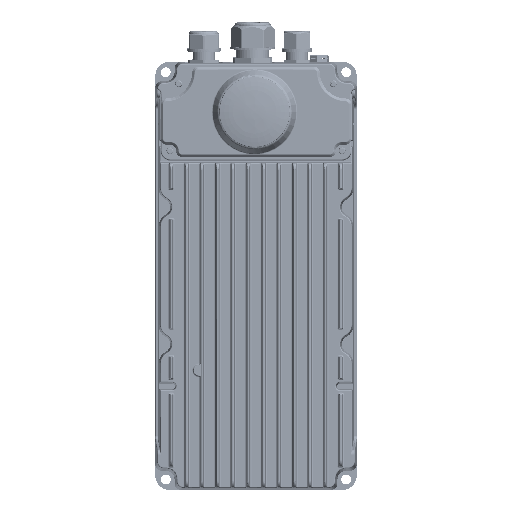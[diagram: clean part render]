
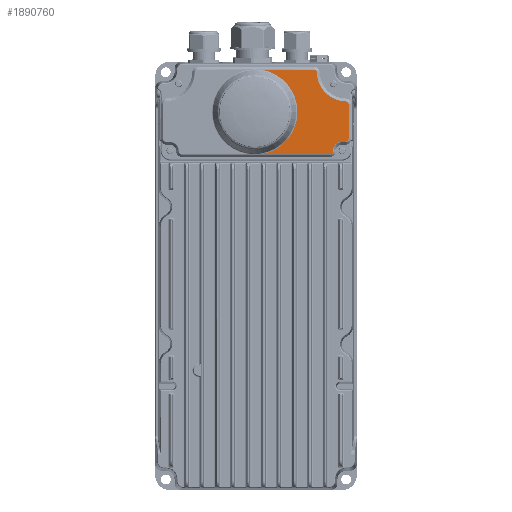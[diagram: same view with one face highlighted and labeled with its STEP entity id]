
A CAD part, top view. The second image highlights one B-rep face of the part: STEP entity #1890760.
In plain terms, the highlighted planar face has unit normal (0, 0, 1).
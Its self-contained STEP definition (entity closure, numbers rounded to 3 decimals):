
#1888760=CARTESIAN_POINT('',(0.,0.,51.8));
#1888770=DIRECTION('',(0.,0.,-1.));
#1888780=DIRECTION('',(1.,0.,0.));
#1888790=AXIS2_PLACEMENT_3D('',#1888760,#1888770,#1888780);
#1888800=PLANE('',#1888790);
#1889790=CARTESIAN_POINT('',(-126.184,41.321,51.8));
#1889800=DIRECTION('',(0.,-1.,0.));
#1889810=VECTOR('',#1889800,1.);
#1889820=LINE('',#1889790,#1889810);
#1889830=CARTESIAN_POINT('',(-126.184,41.321,51.8));
#1889840=VERTEX_POINT('',#1889830);
#1889850=CARTESIAN_POINT('',(-126.184,4.268,51.8));
#1889860=VERTEX_POINT('',#1889850);
#1889870=EDGE_CURVE('',#1889840,#1889860,#1889820,.T.);
#1889880=ORIENTED_EDGE('',*,*,#1889870,.T.);
#1889890=CARTESIAN_POINT('',(-124.016,41.321,51.8));
#1889900=DIRECTION('',(0.,0.,1.));
#1889910=DIRECTION('',(-0.02,1.,0.));
#1889920=AXIS2_PLACEMENT_3D('',#1889890,#1889900,#1889910);
#1889930=CIRCLE('',#1889920,2.169);
#1889940=CARTESIAN_POINT('',(-124.059,43.49,51.8));
#1889950=VERTEX_POINT('',#1889940);
#1889960=EDGE_CURVE('',#1889950,#1889840,#1889930,.T.);
#1889970=ORIENTED_EDGE('',*,*,#1889960,.T.);
#1889980=CARTESIAN_POINT('',(-124.479,64.452,51.8));
#1889990=DIRECTION('',(0.,-0.,-1.));
#1890000=DIRECTION('',(1.,-0.019,0.));
#1890010=AXIS2_PLACEMENT_3D('',#1889980,#1889990,#1890000);
#1890020=CIRCLE('',#1890010,20.966);
#1890030=CARTESIAN_POINT('',(-103.516,64.057,51.8));
#1890040=VERTEX_POINT('',#1890030);
#1890050=EDGE_CURVE('',#1890040,#1889950,#1890020,.T.);
#1890060=ORIENTED_EDGE('',*,*,#1890050,.T.);
#1890070=CARTESIAN_POINT('',(-101.348,64.016,51.8));
#1890080=DIRECTION('',(0.,-0.,1.));
#1890090=DIRECTION('',(0.,1.,0.));
#1890100=AXIS2_PLACEMENT_3D('',#1890070,#1890080,#1890090);
#1890110=CIRCLE('',#1890100,2.169);
#1890120=CARTESIAN_POINT('',(-101.348,66.184,51.8));
#1890130=VERTEX_POINT('',#1890120);
#1890140=EDGE_CURVE('',#1890130,#1890040,#1890110,.T.);
#1890150=ORIENTED_EDGE('',*,*,#1890140,.T.);
#1890160=CARTESIAN_POINT('',(-76.972,66.184,51.8));
#1890170=DIRECTION('',(-1.,0.,0.));
#1890180=VECTOR('',#1890170,1.);
#1890190=LINE('',#1890160,#1890180);
#1890200=CARTESIAN_POINT('',(-76.972,66.184,51.8));
#1890210=VERTEX_POINT('',#1890200);
#1890220=EDGE_CURVE('',#1890210,#1890130,#1890190,.T.);
#1890230=ORIENTED_EDGE('',*,*,#1890220,.T.);
#1890240=CARTESIAN_POINT('',(-76.972,64.016,51.8));
#1890250=DIRECTION('',(0.,-0.,1.));
#1890260=DIRECTION('',(1.,0.,0.));
#1890270=AXIS2_PLACEMENT_3D('',#1890240,#1890250,#1890260);
#1890280=CIRCLE('',#1890270,2.169);
#1890290=CARTESIAN_POINT('',(-74.803,64.016,51.8));
#1890300=VERTEX_POINT('',#1890290);
#1890310=EDGE_CURVE('',#1890300,#1890210,#1890280,.T.);
#1890320=ORIENTED_EDGE('',*,*,#1890310,.T.);
#1890330=CARTESIAN_POINT('',(-74.803,61.485,51.8));
#1890340=DIRECTION('',(0.,1.,0.));
#1890350=VECTOR('',#1890340,1.);
#1890360=LINE('',#1890330,#1890350);
#1890370=CARTESIAN_POINT('',(-74.803,61.485,51.8));
#1890380=VERTEX_POINT('',#1890370);
#1890390=EDGE_CURVE('',#1890380,#1890300,#1890360,.T.);
#1890400=ORIENTED_EDGE('',*,*,#1890390,.T.);
#1890410=CARTESIAN_POINT('',(-68.222,61.485,51.8));
#1890420=DIRECTION('',(0.,-0.,-1.));
#1890430=DIRECTION('',(0.021,-1.,0.));
#1890440=AXIS2_PLACEMENT_3D('',#1890410,#1890420,#1890430);
#1890450=CIRCLE('',#1890440,6.581);
#1890460=CARTESIAN_POINT('',(-68.085,54.905,51.8));
#1890470=VERTEX_POINT('',#1890460);
#1890480=EDGE_CURVE('',#1890470,#1890380,#1890450,.T.);
#1890490=ORIENTED_EDGE('',*,*,#1890480,.T.);
#1890500=CARTESIAN_POINT('',(-68.04,52.737,51.8));
#1890510=DIRECTION('',(0.,0.,1.));
#1890520=DIRECTION('',(1.,0.,0.));
#1890530=AXIS2_PLACEMENT_3D('',#1890500,#1890510,#1890520);
#1890540=CIRCLE('',#1890530,2.169);
#1890550=CARTESIAN_POINT('',(-65.871,52.737,51.8));
#1890560=VERTEX_POINT('',#1890550);
#1890570=EDGE_CURVE('',#1890560,#1890470,#1890540,.T.);
#1890580=ORIENTED_EDGE('',*,*,#1890570,.T.);
#1890590=CARTESIAN_POINT('',(-65.871,4.323,51.8));
#1890600=DIRECTION('',(0.,1.,0.));
#1890610=VECTOR('',#1890600,1.);
#1890620=LINE('',#1890590,#1890610);
#1890630=CARTESIAN_POINT('',(-65.871,4.323,51.8));
#1890640=VERTEX_POINT('',#1890630);
#1890650=EDGE_CURVE('',#1890640,#1890560,#1890620,.T.);
#1890660=ORIENTED_EDGE('',*,*,#1890650,.T.);
#1890670=CARTESIAN_POINT('',(-96.023,-1.,51.8));
#1890680=DIRECTION('',(0.,-0.,1.));
#1890690=DIRECTION('',(0.985,0.174,0.));
#1890700=AXIS2_PLACEMENT_3D('',#1890670,#1890680,#1890690);
#1890710=CIRCLE('',#1890700,30.618);
#1890720=EDGE_CURVE('',#1890640,#1889860,#1890710,.T.);
#1890730=ORIENTED_EDGE('',*,*,#1890720,.F.);
#1890740=EDGE_LOOP('',(#1890730,#1890660,#1890580,#1890490,#1890400,
#1890320,#1890230,#1890150,#1890060,#1889970,#1889880));
#1890750=FACE_OUTER_BOUND('',#1890740,.T.);
#1890760=ADVANCED_FACE('',(#1890750),#1888800,.F.);
